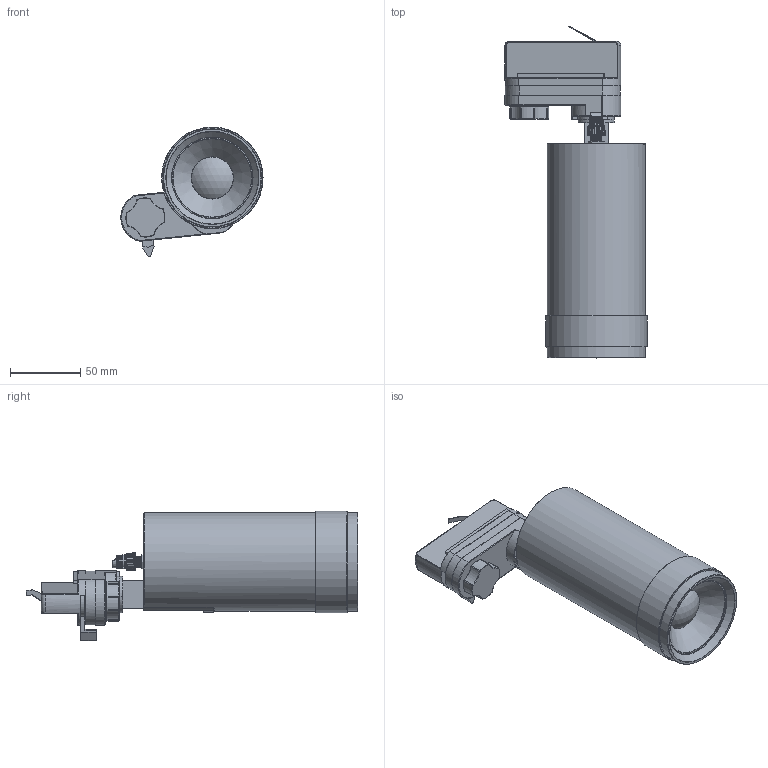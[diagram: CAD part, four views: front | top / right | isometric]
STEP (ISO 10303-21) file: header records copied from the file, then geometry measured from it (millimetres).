
FILE_DESCRIPTION (( 'STEP AP214' ), '1' );
FILE_NAME ('spacegun20.STEP', '2025-04-01T03:19:56', ( '' ), ( '' ), 'SwSTEP 2.0', 'SolidWorks 2023', '' );
FILE_SCHEMA (( 'AUTOMOTIVE_DESIGN' ));
Length unit declared in the file: millimetre
Products named in the file (4): 旋钮; 轨道头; spacegun20; 灯筒
Assembly tree (3 placements, depth 2):
  spacegun20
    灯筒
    轨道头
    旋钮
Bounding box: 101.5 x 237 x 92.63 mm (x, y, z)
Volume: 655969.9 mm3; surface area: 74021.7 mm2
Topology: 3 solids, 3 shells, 893 faces, 2509 edges, 1637 vertices
Faces by surface type: plane 307, cylinder 206, cone 192, torus 171, sphere 9, bspline 8
Full cylindrical faces by diameter (mm): 4.789 x1, 5.689 x1, 6.2 x2, 58.2 x1, 70.2 x2, 72.5 x1
Entity records: 32040 total; most frequent: CARTESIAN_POINT 9628, ORIENTED_EDGE 4952, DIRECTION 4443, EDGE_CURVE 2476, AXIS2_PLACEMENT_3D 1694, VERTEX_POINT 1628, VECTOR 1055, LINE 1055
